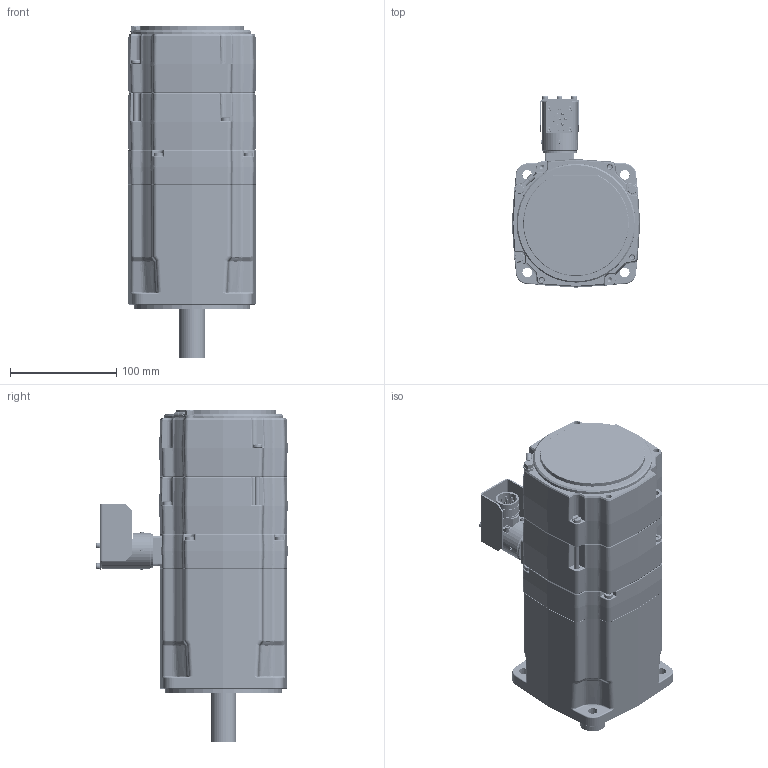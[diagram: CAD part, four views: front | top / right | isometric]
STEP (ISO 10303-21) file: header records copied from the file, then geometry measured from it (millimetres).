
FILE_DESCRIPTION((''),'2;1');
FILE_NAME('EY620EYR7310_ASM','2017-09-29T',('pf73167'),(''),'PRO/ENGINEER BY PARAMETRIC TECHNOLOGY CORPORATION, 2009400','PRO/ENGINEER BY PARAMETRIC TECHNOLOGY CORPORATION, 2009400','');
FILE_SCHEMA(('CONFIG_CONTROL_DESIGN'));
Length unit declared in the file: millimetre
Products named in the file (52): 344187P0020; 5116P1315; 301026P0030; 1150P0412; 344185P0003; 344182P0001; 344212P0001; 344182P0001_ASM; 220087P0013; 344186R0003_ASM; 5116P1319; 1645P0018; 1711P0019; 344181P0001; 344226R2000; 344562P0001; 344570P0001_ENROULE; 344229R2000_ASM; 344183P0006; 344184R2008_ASM; 1143P0515; 1613P0005; 1613P0023; 1317P0304; 5320P0028; 5340P0002; 283154_06_P1CF102_AF0; 283154_06_P1F501_AF0; 283154P0038_ASM; 1821P0017; 1143P0405; 344191P0001; 344191P0022; 1120P0079; 1642P0105; 6620P0014; 1145P0508; 345359P0002; 5340P0124; 5340P0125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
Assembly tree (112 placements, depth 4):
  EY620EYR7310_ASM
    344187P0020
    5116P1315
    301026P0030
    1150P0412  x3
    344186R0003_ASM
      344185P0003
      344182P0001_ASM
        344182P0001
        344212P0001  x2
      220087P0013  x20
    5116P1319
    1645P0018  x2
    1711P0019
    344184R2008_ASM
      344229R2000_ASM
        344181P0001
        344226R2000  x6
        344562P0001  x2
        344570P0001_ENROULE  x2
      344183P0006
    1143P0515  x6
    1613P0005  x3
    1613P0023  x2
    1317P0304
    5320P0028
    5340P0002  x3
    283154P0038_ASM
      283154_06_P1CF102_AF0
      283154_06_P1F501_AF0
    1821P0017
    1143P0405  x4
    344191P0001
    344191P0022
    1120P0079  x2
    1642P0105
    6620P0014
    1145P0508
    345359R1010_800_ASM
      345359P0002
      5340P0124
      5340P0125
      1150P0204  x8
      345359P0001
      1170P0042  x4
      220132P1010_ASM
        220132P1010_0001
        220132P1010_0002
        220132P0111  x4
        220132P0120  x3
      345359P0003
      1150P0305  x3
Bounding box: 121 x 180.2 x 312.8 mm (x, y, z)
Volume: 1942474.1 mm3; surface area: 711617.6 mm2
Topology: 109 solids, 128 shells, 6455 faces, 15500 edges, 9432 vertices
Faces by surface type: cylinder 2151, plane 2005, bspline 1048, cone 793, torus 407, sphere 31, extrusion 20
Entity records: 163921 total; most frequent: CARTESIAN_POINT 61643, ORIENTED_EDGE 21536, DIRECTION 20627, EDGE_CURVE 10768, AXIS2_PLACEMENT_3D 7805, VERTEX_POINT 6681, VECTOR 5017, LINE 4997
